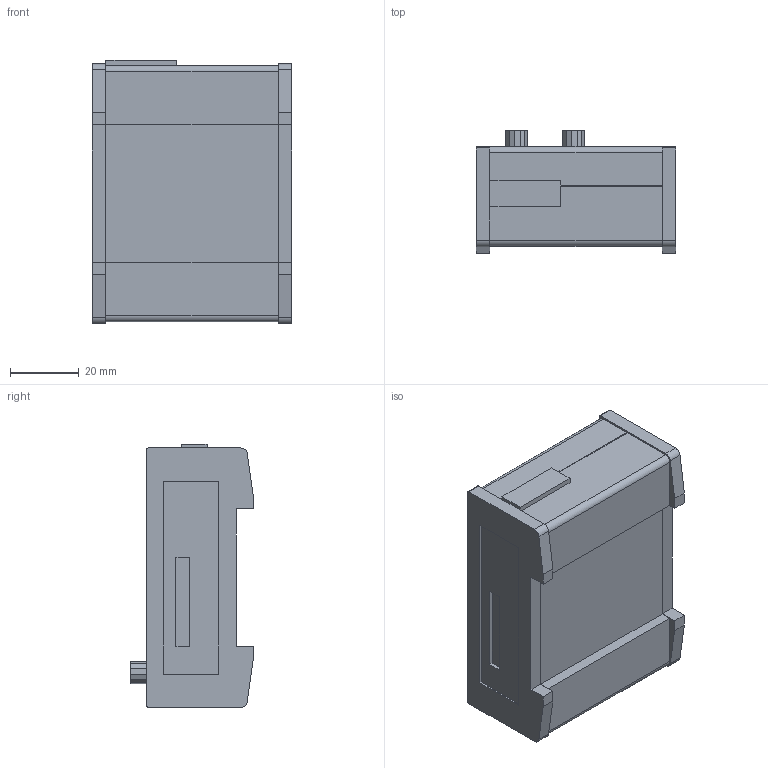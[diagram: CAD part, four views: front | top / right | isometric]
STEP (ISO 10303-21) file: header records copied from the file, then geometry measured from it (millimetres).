
FILE_DESCRIPTION (( 'STEP AP214' ), '1' );
FILE_NAME ('VSCF_700-875-LTE11_V00-01.STEP', '2024-03-27T14:04:14', ( '' ), ( '' ), 'SwSTEP 2.0', 'SolidWorks 2023', '' );
FILE_SCHEMA (( 'AUTOMOTIVE_DESIGN' ));
Length unit declared in the file: millimetre
Products named in the file (1): VSCF_700-875-LTE11_V00-01
Bounding box: 58 x 35.65 x 76.4 mm (x, y, z)
Volume: 109973.5 mm3; surface area: 20088.5 mm2
Topology: 14 solids, 14 shells, 447 faces, 1169 edges, 778 vertices
Faces by surface type: plane 385, bspline 50, cylinder 12
Entity records: 19067 total; most frequent: CARTESIAN_POINT 5517, ORIENTED_EDGE 2338, DIRECTION 1889, EDGE_CURVE 1169, LINE 1045, VECTOR 1045, VERTEX_POINT 778, EDGE_LOOP 483
